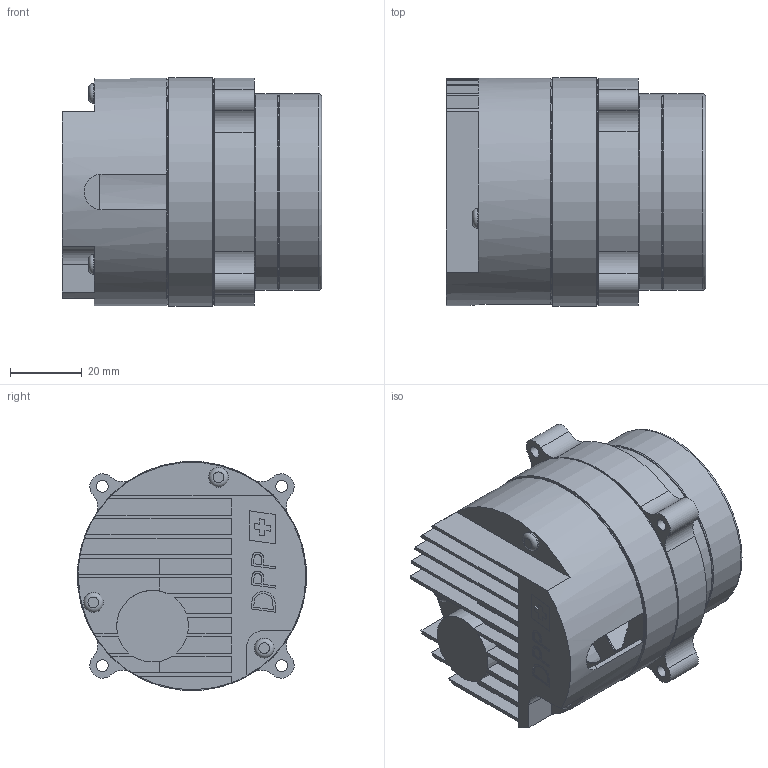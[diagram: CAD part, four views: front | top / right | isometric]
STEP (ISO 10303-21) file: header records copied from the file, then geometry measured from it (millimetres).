
FILE_DESCRIPTION (( 'STEP AP214' ), '1' );
FILE_NAME ('Silencer 250 - 35W Adv Motor.STEP', '2020-04-22T20:34:47', ( '' ), ( '' ), 'SwSTEP 2.0', 'SolidWorks 2019', '' );
FILE_SCHEMA (( 'AUTOMOTIVE_DESIGN' ));
Length unit declared in the file: millimetre
Products named in the file (19): Adv Stator CV; PD03-SC-4; PD20-PU-01; Copy of SO0015^Adv Stator WN01; Adv Stator WN01; Silencer 250 - 35W Adv Motor; PD01-SC-00; Adv Stator MB; PD20-BB-00; PD20-BO-00; PD01-EP-00; Copy of SO0016^Adv Stator WN01; Copy of LS0003^Adv Stator WN01; PD01-CU-00
Assembly tree (20 placements, depth 4):
  Silencer 250 - 35W Adv Motor
    PD20-PU-01
      PD01-SC-00
      PD01-CU-00
      PD20-BO-00
        PD20-BB-00
      PD01-EP-00
      PD01-SC-00
      PD01-SC-00
      PD01-SC-00
      PD01-SC-00
      PD01-SC-00
      Adv Stator MB
    Adv Stator CV
    Adv Stator WN01
      Copy of LS0003^Adv Stator WN01
      Copy of SO0015^Adv Stator WN01
      Copy of SO0016^Adv Stator WN01
    PD03-SC-4  x3
Bounding box: 72.36 x 63.76 x 63.76 mm (x, y, z)
Volume: 102764.7 mm3; surface area: 69897.8 mm2
Topology: 17 solids, 17 shells, 962 faces, 2533 edges, 1622 vertices
Faces by surface type: cylinder 380, plane 377, torus 92, bspline 89, cone 24
Full cylindrical faces by diameter (mm): 2.35 x6, 2.989 x12, 3 x9, 3.3 x6, 3.5 x3, 3.6 x6, 3.8 x12, 4 x12, 5.5 x9, 6 x2, 8.4 x2, 17 x1, 26 x1, 36.1 x1, 36.7 x1, 42.7 x2, 54.8 x2, 60.5 x1, 60.62 x1, 63.5 x1, 64 x1
Entity records: 32981 total; most frequent: CARTESIAN_POINT 9133, DIRECTION 4781, ORIENTED_EDGE 4662, EDGE_CURVE 2331, AXIS2_PLACEMENT_3D 1803, VERTEX_POINT 1579, EDGE_LOOP 1216, LINE 1175
